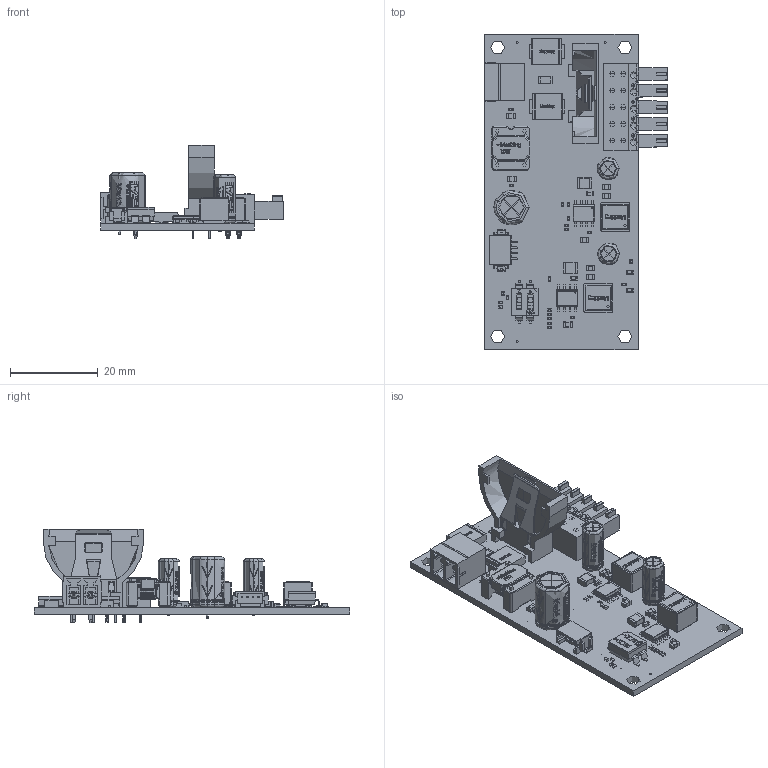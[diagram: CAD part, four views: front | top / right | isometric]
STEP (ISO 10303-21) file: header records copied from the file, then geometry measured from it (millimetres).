
FILE_DESCRIPTION(('STEP AP214'),'1');
FILE_NAME('ADP-NT24V4_REV100.stp','2024-12-05T09:00:15',(' '),(' '),'Spatial InterOp 3D',' ',' ');
FILE_SCHEMA(('AUTOMOTIVE_DESIGN { 1 0 10303 214 1 1 1 1 }'));
Length unit declared in the file: millimetre
Products named in the file (139): FS_PRD_1X1_SMD_1P27; Volumenk_5c_X_5c_F6rper1; COMPONENTS; fs_sw_DIP-2_9p8x6p022; Actuator; Contact; Base 02; Cover 02; Terminal_front; Terminal_back; FS_SW_DIP-2_9P8X6P02; FS_FIDUCIAL_100_CROSS; 1; led0603_0402; housing; cover; base; Polarity Mark; FS_LED0603; fs_c_elko_tht5x112; Component1; Component2; FS_C_ELKO_THT5X11; FS_C1210; _3f__3f__3f__3f__3f__3f__3f__3f__3f__3f_2; FS_C0402; _3f__3f__3f__3f__3f__3f__3f__3f__3f__3f_2-0; FS_C0603; _3f__3f__3f__3f__3f__3f__3f__3f__3f__3f_2-1; fs_soic8_5p8x5_ep2; Component1-2; Component2-3; Component3; Component4; Component5; Component6; Component7; Component8; Component9; Component10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
Assembly tree (206 placements, depth 6):
  ADP-NT24V4_REV100
    COMPONENTS
      FS_PRD_1X1_SMD_1P27
        Volumenk_5c_X_5c_F6rper1
      FS_PRD_1X1_SMD_1P27
        Volumenk_5c_X_5c_F6rper1
      FS_PRD_1X1_SMD_1P27
        Volumenk_5c_X_5c_F6rper1
      FS_PRD_1X1_SMD_1P27
        Volumenk_5c_X_5c_F6rper1
      FS_PRD_1X1_SMD_1P27
        Volumenk_5c_X_5c_F6rper1
      FS_PRD_1X1_SMD_1P27
        Volumenk_5c_X_5c_F6rper1
      FS_PRD_1X1_SMD_1P27
        Volumenk_5c_X_5c_F6rper1
      FS_PRD_1X1_SMD_1P27
        Volumenk_5c_X_5c_F6rper1
      FS_PRD_1X1_SMD_1P27
        Volumenk_5c_X_5c_F6rper1
      FS_PRD_1X1_SMD_1P27
        Volumenk_5c_X_5c_F6rper1
      FS_PRD_1X1_SMD_1P27
        Volumenk_5c_X_5c_F6rper1
      FS_PRD_1X1_SMD_1P27
        Volumenk_5c_X_5c_F6rper1
      FS_SW_DIP-2_9P8X6P02
        fs_sw_DIP-2_9p8x6p022
          Actuator  x2
          Contact  x2
          Base 02
          Cover 02
          Terminal_front  x2
          Terminal_back  x2
      FS_FIDUCIAL_100_CROSS
        1
      FS_FIDUCIAL_100_CROSS
        1
      FS_FIDUCIAL_100_CROSS
        1
      FS_LED0603
        led0603_0402
          housing
          cover
          base  x2
          Polarity Mark
      FS_LED0603
        led0603_0402
          housing
          cover
          base  x2
          Polarity Mark
      FS_C_ELKO_THT5X11
        fs_c_elko_tht5x112
          Component1
          Component2
      FS_C_ELKO_THT5X11
        fs_c_elko_tht5x112
          Component1
          Component2
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Bounding box: 41.7 x 72 x 21.31 mm (x, y, z)
Volume: 5922.9 mm3; surface area: 17922 mm2
Topology: 122 solids, 166 shells, 6453 faces, 16660 edges, 10627 vertices
Faces by surface type: plane 3661, cylinder 1653, bspline 498, torus 282, sphere 218, extrusion 127, cone 14
Full cylindrical faces by diameter (mm): 0.12 x2
Entity records: 185996 total; most frequent: CARTESIAN_POINT 49999, ORIENTED_EDGE 20752, DIRECTION 20416, EDGE_CURVE 10509, AXIS2_PLACEMENT_3D 6875, VERTEX_POINT 6849, VECTOR 6666, LINE 6578
